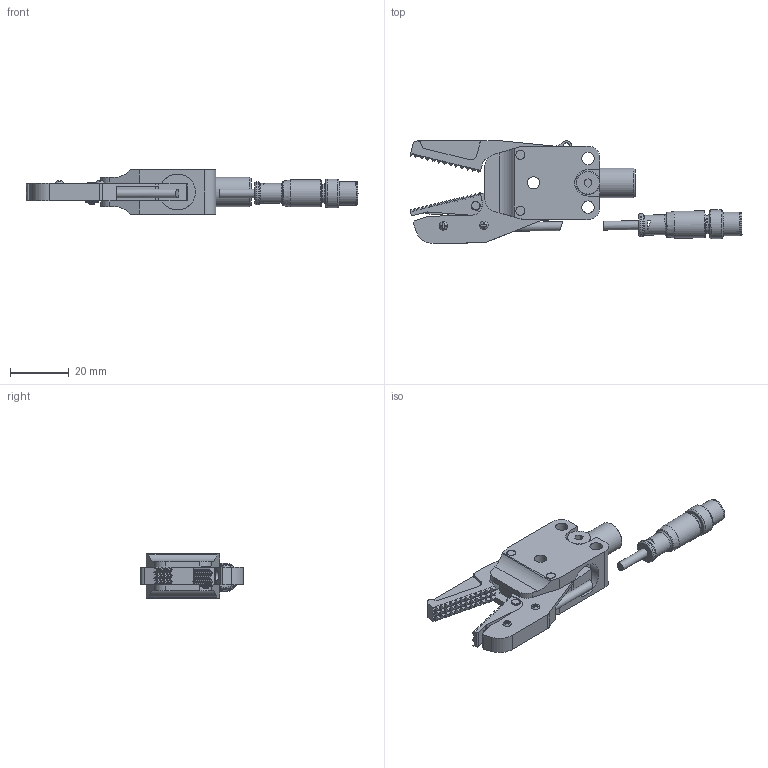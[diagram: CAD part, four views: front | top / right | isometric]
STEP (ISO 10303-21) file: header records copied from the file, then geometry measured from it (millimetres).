
FILE_DESCRIPTION(('STEP AP214'),'1');
FILE_NAME('CA.GZA.10.12.MS.stp','2020-04-27T07:26:07',(' '),(' '),'Spatial InterOp 3D',' ',' ');
FILE_SCHEMA(('AUTOMOTIVE_DESIGN { 1 0 10303 214 1 1 1 1 }'));
Length unit declared in the file: millimetre
Products named in the file (9): CA.GZA.10.12.MS; A.ELA.RA1.5; SP.2x7.5SS; V.TBCE1,6X6; MMD.IL5AP3AVF80; GZA.10.12.3.MS1; GZA.10.12.3.MS; GZA.10.12.3.D; GZA.10.12.1.L (derivato)
Assembly tree (9 placements, depth 2):
  CA.GZA.10.12.MS
    A.ELA.RA1.5
    SP.2x7.5SS
    V.TBCE1,6X6  x2
    MMD.IL5AP3AVF80
    GZA.10.12.3.MS1
    GZA.10.12.3.MS
    GZA.10.12.3.D
    GZA.10.12.1.L (derivato)
Bounding box: 112.78 x 34.94 x 15 mm (x, y, z)
Volume: 17177.7 mm3; surface area: 11948.2 mm2
Topology: 13 solids, 14 shells, 689 faces, 1552 edges, 903 vertices
Faces by surface type: plane 503, cylinder 149, torus 18, cone 14, sphere 5
Full cylindrical faces by diameter (mm): 1 x3, 1.25 x2, 1.4 x2, 1.5 x1, 1.6 x2, 1.8 x2, 2 x3, 2.02 x1, 2.05 x3, 2.1 x2, 3 x3, 3.05 x8, 4 x1, 4.2 x5, 5.8 x1, 6.3 x1, 6.8 x1, 7.8 x2, 8 x2, 9.17 x1, 9.8 x1, 10 x1, 12.2 x2
Entity records: 23272 total; most frequent: CARTESIAN_POINT 3062, DIRECTION 3037, ORIENTED_EDGE 2766, EDGE_CURVE 1383, LINE 1047, VECTOR 1047, AXIS2_PLACEMENT_3D 995, VERTEX_POINT 837
